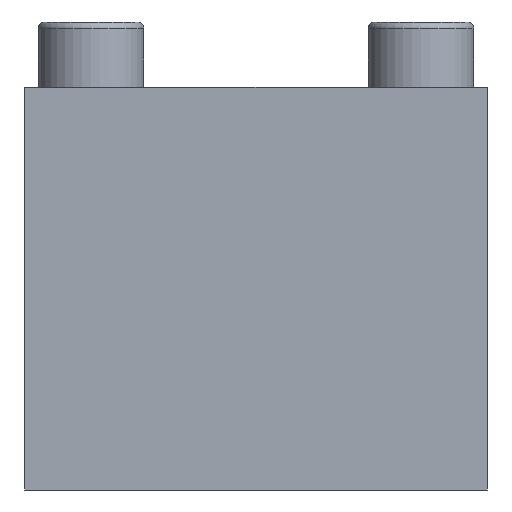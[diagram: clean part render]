
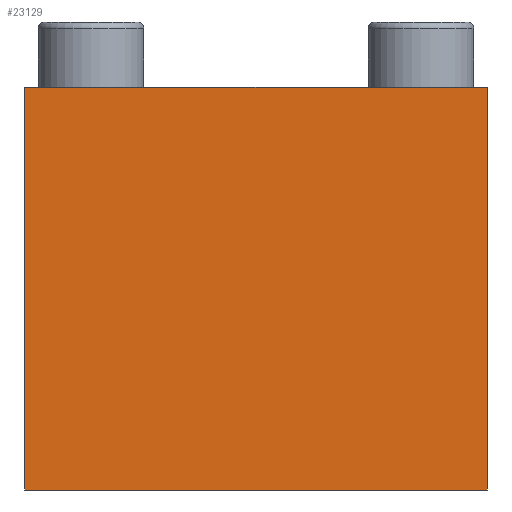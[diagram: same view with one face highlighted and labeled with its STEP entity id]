
A CAD part, front view. The second image highlights one B-rep face of the part: STEP entity #23129.
In plain terms, the highlighted planar face has unit normal (0, -1, 0).
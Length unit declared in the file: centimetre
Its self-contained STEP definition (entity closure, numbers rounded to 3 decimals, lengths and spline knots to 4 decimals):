
#1236=FACE_OUTER_BOUND('',#2570,.T.);
#2570=EDGE_LOOP('',(#15374,#15375,#15376,#15377));
#3858=LINE('',#29869,#6414);
#4524=LINE('',#32447,#7080);
#4527=LINE('',#32453,#7083);
#4528=LINE('',#32454,#7084);
#6414=VECTOR('',#25349,7.);
#7080=VECTOR('',#26055,6.1);
#7083=VECTOR('',#26060,6.1);
#7084=VECTOR('',#26061,7.);
#8970=VERTEX_POINT('',#29866);
#8971=VERTEX_POINT('',#29868);
#9895=VERTEX_POINT('',#32446);
#9897=VERTEX_POINT('',#32452);
#11166=EDGE_CURVE('',#8970,#8971,#3858,.T.);
#12091=EDGE_CURVE('',#8970,#9895,#4524,.T.);
#12094=EDGE_CURVE('',#8971,#9897,#4527,.T.);
#12095=EDGE_CURVE('',#9897,#9895,#4528,.T.);
#15374=ORIENTED_EDGE('',*,*,#12094,.F.);
#15375=ORIENTED_EDGE('',*,*,#11166,.F.);
#15376=ORIENTED_EDGE('',*,*,#12091,.T.);
#15377=ORIENTED_EDGE('',*,*,#12095,.F.);
#21001=PLANE('',#24384);
#23129=ADVANCED_FACE('',(#1236),#21001,.T.);
#24384=AXIS2_PLACEMENT_3D('',#32451,#26058,#26059);
#25349=DIRECTION('',(1.,0.,0.));
#26055=DIRECTION('',(0.,0.,-1.));
#26058=DIRECTION('center_axis',(0.,-1.,0.));
#26059=DIRECTION('ref_axis',(-1.,0.,0.));
#26060=DIRECTION('',(0.,0.,-1.));
#26061=DIRECTION('',(-1.,0.,0.));
#29866=CARTESIAN_POINT('',(-3.5,-12.5,4.85));
#29868=CARTESIAN_POINT('',(3.5,-12.5,4.85));
#29869=CARTESIAN_POINT('',(3.5,-12.5,4.85));
#32446=CARTESIAN_POINT('',(-3.5,-12.5,-1.25));
#32447=CARTESIAN_POINT('',(-3.5,-12.5,0.));
#32451=CARTESIAN_POINT('Origin',(3.5,-12.5,3.6));
#32452=CARTESIAN_POINT('',(3.5,-12.5,-1.25));
#32453=CARTESIAN_POINT('',(3.5,-12.5,0.));
#32454=CARTESIAN_POINT('',(3.5,-12.5,-1.25));
